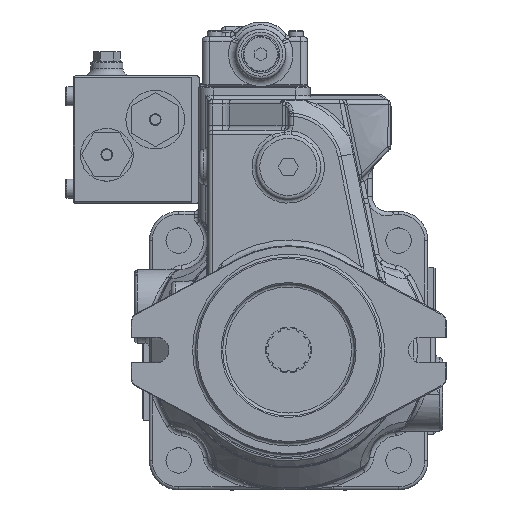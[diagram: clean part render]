
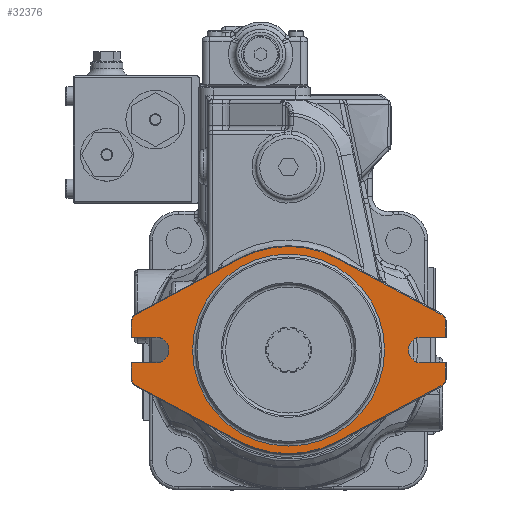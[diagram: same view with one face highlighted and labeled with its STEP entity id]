
A CAD part, top view. The second image highlights one B-rep face of the part: STEP entity #32376.
In plain terms, the highlighted planar face has unit normal (0, 0, 1).
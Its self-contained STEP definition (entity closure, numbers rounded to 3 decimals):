
#32142=CARTESIAN_POINT('',(90.5,8.75,0.0));
#32143=VERTEX_POINT('',#32142);
#32150=CARTESIAN_POINT('',(90.5,-8.75,0.0));
#32151=VERTEX_POINT('',#32150);
#32152=CARTESIAN_POINT('',(90.5,0.0,0.0));
#32153=DIRECTION('',(0.0,0.0,1.0));
#32154=DIRECTION('',(0.0,1.0,0.0));
#32155=AXIS2_PLACEMENT_3D('',#32152,#32153,#32154);
#32156=CIRCLE('',#32155,8.75);
#32157=EDGE_CURVE('',#32143,#32151,#32156,.T.);
#32184=CARTESIAN_POINT('',(-90.5,-8.75,0.0));
#32185=VERTEX_POINT('',#32184);
#32192=CARTESIAN_POINT('',(-90.5,8.75,0.0));
#32193=VERTEX_POINT('',#32192);
#32194=CARTESIAN_POINT('',(-90.5,0.0,0.0));
#32195=DIRECTION('',(0.0,0.0,1.0));
#32196=DIRECTION('',(0.0,-1.0,0.0));
#32197=AXIS2_PLACEMENT_3D('',#32194,#32195,#32196);
#32198=CIRCLE('',#32197,8.75);
#32199=EDGE_CURVE('',#32185,#32193,#32198,.T.);
#32210=CARTESIAN_POINT('',(0.,0.,0.0));
#32211=DIRECTION('',(0.0,0.0,1.0));
#32212=DIRECTION('',(1.0,0.0,0.0));
#32213=AXIS2_PLACEMENT_3D('',#32210,#32211,#32212);
#32214=PLANE('',#32213);
#32215=CARTESIAN_POINT('',(107.0,-8.75,0.0));
#32216=VERTEX_POINT('',#32215);
#32217=CARTESIAN_POINT('',(107.,-19.23,0.0));
#32218=VERTEX_POINT('',#32217);
#32219=CARTESIAN_POINT('',(107.0,-8.75,0.0));
#32220=DIRECTION('',(0.0,-1.0,0.0));
#32221=VECTOR('',#32220,10.48);
#32222=LINE('',#32219,#32221);
#32223=EDGE_CURVE('',#32216,#32218,#32222,.T.);
#32224=ORIENTED_EDGE('',*,*,#32223,.F.);
#32225=CARTESIAN_POINT('',(90.5,-8.75,0.0));
#32226=DIRECTION('',(1.0,0.0,0.0));
#32227=VECTOR('',#32226,16.5);
#32228=LINE('',#32225,#32227);
#32229=EDGE_CURVE('',#32151,#32216,#32228,.T.);
#32230=ORIENTED_EDGE('',*,*,#32229,.F.);
#32231=ORIENTED_EDGE('',*,*,#32157,.F.);
#32232=CARTESIAN_POINT('',(107.0,8.75,0.0));
#32233=VERTEX_POINT('',#32232);
#32234=CARTESIAN_POINT('',(107.0,8.75,0.0));
#32235=DIRECTION('',(-1.0,0.0,0.0));
#32236=VECTOR('',#32235,16.5);
#32237=LINE('',#32234,#32236);
#32238=EDGE_CURVE('',#32233,#32143,#32237,.T.);
#32239=ORIENTED_EDGE('',*,*,#32238,.F.);
#32240=CARTESIAN_POINT('',(107.0,19.23,0.0));
#32241=VERTEX_POINT('',#32240);
#32242=CARTESIAN_POINT('',(107.,19.23,0.0));
#32243=DIRECTION('',(0.0,-1.0,0.0));
#32244=VECTOR('',#32243,10.48);
#32245=LINE('',#32242,#32244);
#32246=EDGE_CURVE('',#32241,#32233,#32245,.T.);
#32247=ORIENTED_EDGE('',*,*,#32246,.F.);
#32248=CARTESIAN_POINT('',(103.872,24.459,0.0));
#32249=VERTEX_POINT('',#32248);
#32250=CARTESIAN_POINT('',(101.065,19.23,0.0));
#32251=DIRECTION('',(0.0,0.0,-1.0));
#32252=DIRECTION('',(0.473,0.881,0.0));
#32253=AXIS2_PLACEMENT_3D('',#32250,#32251,#32252);
#32254=CIRCLE('',#32253,5.935);
#32255=EDGE_CURVE('',#32249,#32241,#32254,.T.);
#32256=ORIENTED_EDGE('',*,*,#32255,.F.);
#32257=CARTESIAN_POINT('',(33.433,62.275,0.0));
#32258=VERTEX_POINT('',#32257);
#32259=CARTESIAN_POINT('',(33.433,62.275,0.0));
#32260=DIRECTION('',(0.881,-0.473,0.0));
#32261=VECTOR('',#32260,79.948);
#32262=LINE('',#32259,#32261);
#32263=EDGE_CURVE('',#32258,#32249,#32262,.T.);
#32264=ORIENTED_EDGE('',*,*,#32263,.F.);
#32265=CARTESIAN_POINT('',(-33.433,62.275,0.0));
#32266=VERTEX_POINT('',#32265);
#32267=CARTESIAN_POINT('',(0.0,0.0,0.0));
#32268=DIRECTION('',(0.0,0.0,-1.0));
#32269=DIRECTION('',(-0.473,0.881,0.0));
#32270=AXIS2_PLACEMENT_3D('',#32267,#32268,#32269);
#32271=CIRCLE('',#32270,70.683);
#32272=EDGE_CURVE('',#32266,#32258,#32271,.T.);
#32273=ORIENTED_EDGE('',*,*,#32272,.F.);
#32274=CARTESIAN_POINT('',(-103.872,24.459,0.0));
#32275=VERTEX_POINT('',#32274);
#32276=CARTESIAN_POINT('',(-103.872,24.459,0.0));
#32277=DIRECTION('',(0.881,0.473,0.0));
#32278=VECTOR('',#32277,79.948);
#32279=LINE('',#32276,#32278);
#32280=EDGE_CURVE('',#32275,#32266,#32279,.T.);
#32281=ORIENTED_EDGE('',*,*,#32280,.F.);
#32282=CARTESIAN_POINT('',(-107.0,19.23,0.0));
#32283=VERTEX_POINT('',#32282);
#32284=CARTESIAN_POINT('',(-101.065,19.23,0.0));
#32285=DIRECTION('',(0.0,0.0,-1.0));
#32286=DIRECTION('',(-1.0,0.0,0.0));
#32287=AXIS2_PLACEMENT_3D('',#32284,#32285,#32286);
#32288=CIRCLE('',#32287,5.935);
#32289=EDGE_CURVE('',#32283,#32275,#32288,.T.);
#32290=ORIENTED_EDGE('',*,*,#32289,.F.);
#32291=CARTESIAN_POINT('',(-107.0,8.75,0.0));
#32292=VERTEX_POINT('',#32291);
#32293=CARTESIAN_POINT('',(-107.0,8.75,0.0));
#32294=DIRECTION('',(0.0,1.0,0.0));
#32295=VECTOR('',#32294,10.48);
#32296=LINE('',#32293,#32295);
#32297=EDGE_CURVE('',#32292,#32283,#32296,.T.);
#32298=ORIENTED_EDGE('',*,*,#32297,.F.);
#32299=CARTESIAN_POINT('',(-90.5,8.75,0.0));
#32300=DIRECTION('',(-1.0,0.0,0.0));
#32301=VECTOR('',#32300,16.5);
#32302=LINE('',#32299,#32301);
#32303=EDGE_CURVE('',#32193,#32292,#32302,.T.);
#32304=ORIENTED_EDGE('',*,*,#32303,.F.);
#32305=ORIENTED_EDGE('',*,*,#32199,.F.);
#32306=CARTESIAN_POINT('',(-107.0,-8.75,0.0));
#32307=VERTEX_POINT('',#32306);
#32308=CARTESIAN_POINT('',(-107.0,-8.75,0.0));
#32309=DIRECTION('',(1.0,0.0,0.0));
#32310=VECTOR('',#32309,16.5);
#32311=LINE('',#32308,#32310);
#32312=EDGE_CURVE('',#32307,#32185,#32311,.T.);
#32313=ORIENTED_EDGE('',*,*,#32312,.F.);
#32314=CARTESIAN_POINT('',(-107.0,-19.23,0.0));
#32315=VERTEX_POINT('',#32314);
#32316=CARTESIAN_POINT('',(-107.0,-19.23,0.0));
#32317=DIRECTION('',(0.0,1.0,0.0));
#32318=VECTOR('',#32317,10.48);
#32319=LINE('',#32316,#32318);
#32320=EDGE_CURVE('',#32315,#32307,#32319,.T.);
#32321=ORIENTED_EDGE('',*,*,#32320,.F.);
#32322=CARTESIAN_POINT('',(-103.872,-24.459,0.0));
#32323=VERTEX_POINT('',#32322);
#32324=CARTESIAN_POINT('',(-101.065,-19.23,0.0));
#32325=DIRECTION('',(0.0,0.0,-1.0));
#32326=DIRECTION('',(-0.473,-0.881,0.0));
#32327=AXIS2_PLACEMENT_3D('',#32324,#32325,#32326);
#32328=CIRCLE('',#32327,5.935);
#32329=EDGE_CURVE('',#32323,#32315,#32328,.T.);
#32330=ORIENTED_EDGE('',*,*,#32329,.F.);
#32331=CARTESIAN_POINT('',(-33.433,-62.275,0.0));
#32332=VERTEX_POINT('',#32331);
#32333=CARTESIAN_POINT('',(-33.433,-62.275,0.0));
#32334=DIRECTION('',(-0.881,0.473,0.0));
#32335=VECTOR('',#32334,79.948);
#32336=LINE('',#32333,#32335);
#32337=EDGE_CURVE('',#32332,#32323,#32336,.T.);
#32338=ORIENTED_EDGE('',*,*,#32337,.F.);
#32339=CARTESIAN_POINT('',(33.433,-62.275,0.0));
#32340=VERTEX_POINT('',#32339);
#32341=CARTESIAN_POINT('',(0.0,0.0,0.0));
#32342=DIRECTION('',(0.0,0.0,-1.0));
#32343=DIRECTION('',(0.473,-0.881,0.0));
#32344=AXIS2_PLACEMENT_3D('',#32341,#32342,#32343);
#32345=CIRCLE('',#32344,70.683);
#32346=EDGE_CURVE('',#32340,#32332,#32345,.T.);
#32347=ORIENTED_EDGE('',*,*,#32346,.F.);
#32348=CARTESIAN_POINT('',(103.872,-24.459,0.0));
#32349=VERTEX_POINT('',#32348);
#32350=CARTESIAN_POINT('',(103.872,-24.459,0.0));
#32351=DIRECTION('',(-0.881,-0.473,0.0));
#32352=VECTOR('',#32351,79.948);
#32353=LINE('',#32350,#32352);
#32354=EDGE_CURVE('',#32349,#32340,#32353,.T.);
#32355=ORIENTED_EDGE('',*,*,#32354,.F.);
#32356=CARTESIAN_POINT('',(101.065,-19.23,0.0));
#32357=DIRECTION('',(0.0,0.0,-1.0));
#32358=DIRECTION('',(1.0,0.0,0.0));
#32359=AXIS2_PLACEMENT_3D('',#32356,#32357,#32358);
#32360=CIRCLE('',#32359,5.935);
#32361=EDGE_CURVE('',#32218,#32349,#32360,.T.);
#32362=ORIENTED_EDGE('',*,*,#32361,.F.);
#32363=EDGE_LOOP('',(#32224,#32230,#32231,#32239,#32247,#32256,#32264,#32273,#32281,#32290,#32298,#32304,#32305,#32313,#32321,#32330,#32338,#32347,#32355,#32362));
#32364=FACE_OUTER_BOUND('',#32363,.T.);
#32365=CARTESIAN_POINT('',(65.487,0.,0.0));
#32366=VERTEX_POINT('',#32365);
#32367=CARTESIAN_POINT('',(0.0,0.0,0.0));
#32368=DIRECTION('',(0.0,0.0,1.0));
#32369=DIRECTION('',(-1.0,0.0,0.0));
#32370=AXIS2_PLACEMENT_3D('',#32367,#32368,#32369);
#32371=CIRCLE('',#32370,65.487);
#32372=EDGE_CURVE('',#32366,#32366,#32371,.T.);
#32373=ORIENTED_EDGE('',*,*,#32372,.F.);
#32374=EDGE_LOOP('',(#32373));
#32375=FACE_BOUND('',#32374,.T.);
#32376=ADVANCED_FACE('',(#32364,#32375),#32214,.T.);
